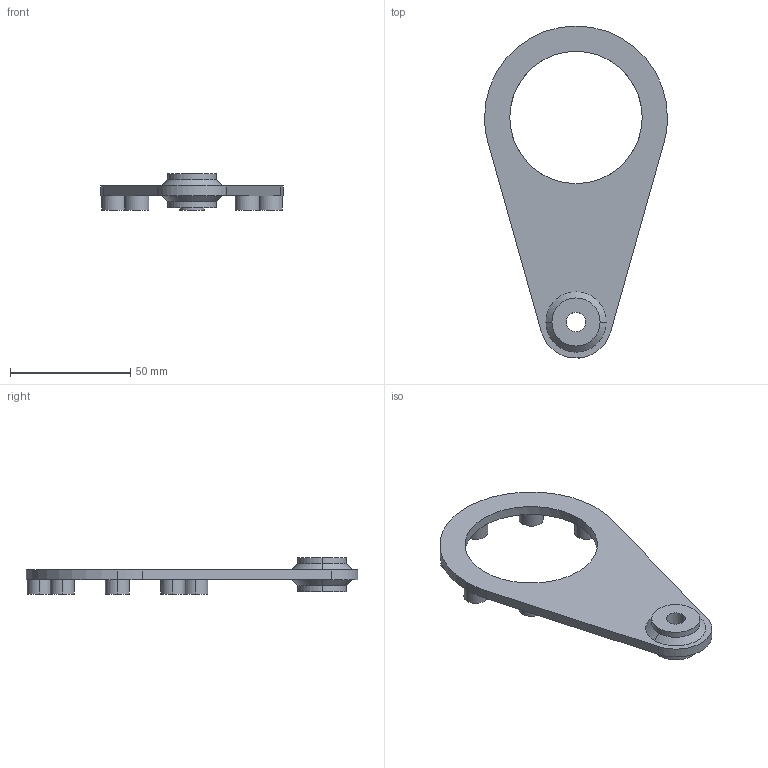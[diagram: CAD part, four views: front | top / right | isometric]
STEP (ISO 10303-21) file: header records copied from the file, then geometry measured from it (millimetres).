
FILE_DESCRIPTION (( 'STEP AP214' ), '1' );
FILE_NAME ('Drehmomentstütze_CMRV030.STEP', '2018-04-23T11:09:38', ( '' ), ( '' ), 'SwSTEP 2.0', 'SolidWorks 2012', '' );
FILE_SCHEMA (( 'AUTOMOTIVE_DESIGN' ));
Length unit declared in the file: millimetre
Products named in the file (1): Drehmomentstütze_CMRV030
Bounding box: 76 x 137.94 x 15 mm (x, y, z)
Volume: 26300.3 mm3; surface area: 14115.6 mm2
Topology: 1 solids, 1 shells, 46 faces, 110 edges, 68 vertices
Faces by surface type: cylinder 28, plane 14, cone 4
Entity records: 1890 total; most frequent: DIRECTION 272, CARTESIAN_POINT 222, ORIENTED_EDGE 216, AXIS2_PLACEMENT_3D 117, EDGE_CURVE 108, CIRCLE 70, VERTEX_POINT 67, EDGE_LOOP 53
